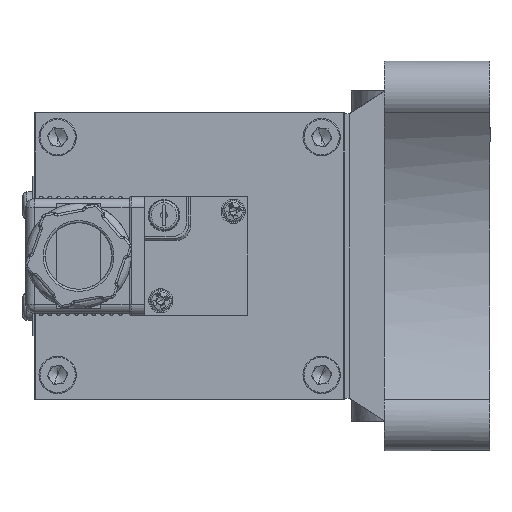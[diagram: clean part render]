
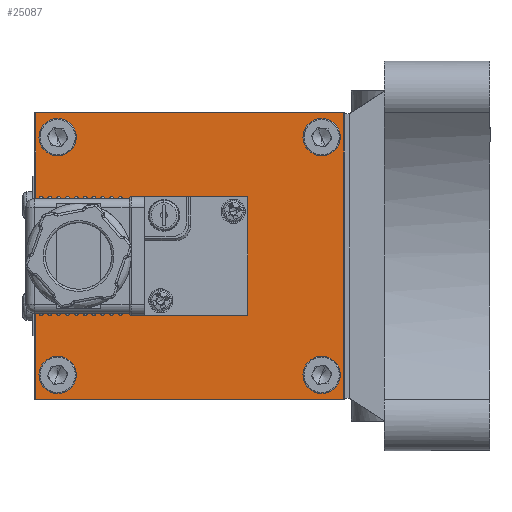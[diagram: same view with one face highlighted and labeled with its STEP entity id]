
A CAD part, left-side view. The second image highlights one B-rep face of the part: STEP entity #25087.
In plain terms, the highlighted planar face has unit normal (-1, 0, 0) as drawn and (0, 0, -1) by its records, which use the part's own axes.
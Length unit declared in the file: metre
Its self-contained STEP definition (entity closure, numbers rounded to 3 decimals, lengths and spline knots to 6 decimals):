
#214 = ORIENTED_EDGE ( 'NONE', *, *, #21885, .F. ) ;
#366 = DIRECTION ( 'NONE',  ( 0., 0., -1. ) ) ;
#499 = DIRECTION ( 'NONE',  ( 1., 0., 0. ) ) ;
#1231 = CIRCLE ( 'NONE', #6422, 0.0025 ) ;
#1237 = AXIS2_PLACEMENT_3D ( 'NONE', #18981, #3354, #21614 ) ;
#1310 = EDGE_CURVE ( 'NONE', #4756, #3748, #26468, .T. ) ;
#2567 = LINE ( 'NONE', #22824, #10328 ) ;
#2728 = EDGE_LOOP ( 'NONE', ( #11006, #214 ) ) ;
#2743 = CARTESIAN_POINT ( 'NONE',  ( -0.027, 0.00625, 0. ) ) ;
#3066 = VERTEX_POINT ( 'NONE', #23963 ) ;
#3354 = DIRECTION ( 'NONE',  ( 0., 0., -1. ) ) ;
#3632 = DIRECTION ( 'NONE',  ( -1., 0., 0. ) ) ;
#3748 = VERTEX_POINT ( 'NONE', #26095 ) ;
#4061 = EDGE_CURVE ( 'NONE', #27151, #17177, #2567, .T. ) ;
#4756 = VERTEX_POINT ( 'NONE', #29912 ) ;
#5339 = DIRECTION ( 'NONE',  ( 1., 0., 0. ) ) ;
#5562 = EDGE_LOOP ( 'NONE', ( #20130, #16241 ) ) ;
#5806 = CARTESIAN_POINT ( 'NONE',  ( 0.0325, 0.03625, 0. ) ) ;
#5951 = LINE ( 'NONE', #22556, #12888 ) ;
#6034 = VERTEX_POINT ( 'NONE', #26661 ) ;
#6422 = AXIS2_PLACEMENT_3D ( 'NONE', #15931, #366, #18590 ) ;
#6529 = FACE_BOUND ( 'NONE', #5562, .T. ) ;
#7242 = CARTESIAN_POINT ( 'NONE',  ( -0.027, 0.00625, 0. ) ) ;
#7887 = EDGE_CURVE ( 'NONE', #32171, #17316, #31930, .T. ) ;
#7992 = CARTESIAN_POINT ( 'NONE',  ( -0.0245, 0.06625, 0. ) ) ;
#9468 = EDGE_CURVE ( 'NONE', #6034, #22218, #27329, .T. ) ;
#9486 = CIRCLE ( 'NONE', #32975, 0.0025 ) ;
#9865 = EDGE_CURVE ( 'NONE', #22218, #27151, #5951, .T. ) ;
#9883 = DIRECTION ( 'NONE',  ( 1., 0., 0. ) ) ;
#10328 = VECTOR ( 'NONE', #27907, 1. ) ;
#10758 = ORIENTED_EDGE ( 'NONE', *, *, #26151, .F. ) ;
#11006 = ORIENTED_EDGE ( 'NONE', *, *, #7887, .F. ) ;
#12044 = DIRECTION ( 'NONE',  ( 0., -1., 0. ) ) ;
#12333 = AXIS2_PLACEMENT_3D ( 'NONE', #14299, #32717, #16919 ) ;
#12564 = CARTESIAN_POINT ( 'NONE',  ( 0.0245, 0.00625, 0. ) ) ;
#12595 = VERTEX_POINT ( 'NONE', #22523 ) ;
#12791 = DIRECTION ( 'NONE',  ( 0., 0., -1. ) ) ;
#12888 = VECTOR ( 'NONE', #12044, 1. ) ;
#13453 = FACE_BOUND ( 'NONE', #15788, .T. ) ;
#14253 = AXIS2_PLACEMENT_3D ( 'NONE', #2743, #21013, #5339 ) ;
#14299 = CARTESIAN_POINT ( 'NONE',  ( -0.027, 0.06625, 0. ) ) ;
#14625 = CIRCLE ( 'NONE', #1237, 0.0025 ) ;
#14814 = ORIENTED_EDGE ( 'NONE', *, *, #4061, .F. ) ;
#15093 = CARTESIAN_POINT ( 'NONE',  ( 0.027, 0.00625, 0. ) ) ;
#15499 = DIRECTION ( 'NONE',  ( 0., 0., -1. ) ) ;
#15720 = EDGE_CURVE ( 'NONE', #31283, #12595, #22054, .T. ) ;
#15788 = EDGE_LOOP ( 'NONE', ( #30892, #10758 ) ) ;
#15931 = CARTESIAN_POINT ( 'NONE',  ( 0.027, 0.06625, 0. ) ) ;
#16072 = DIRECTION ( 'NONE',  ( 0., 0., 1. ) ) ;
#16241 = ORIENTED_EDGE ( 'NONE', *, *, #17935, .F. ) ;
#16519 = VERTEX_POINT ( 'NONE', #7992 ) ;
#16530 = VECTOR ( 'NONE', #21462, 1. ) ;
#16620 = CARTESIAN_POINT ( 'NONE',  ( 0., 0.07125, 0. ) ) ;
#16919 = DIRECTION ( 'NONE',  ( 1., 0., 0. ) ) ;
#16981 = EDGE_CURVE ( 'NONE', #3748, #4756, #1231, .T. ) ;
#17177 = VERTEX_POINT ( 'NONE', #24796 ) ;
#17316 = VERTEX_POINT ( 'NONE', #12564 ) ;
#17733 = DIRECTION ( 'NONE',  ( 1., 0., 0. ) ) ;
#17825 = AXIS2_PLACEMENT_3D ( 'NONE', #31170, #12791, #28542 ) ;
#17935 = EDGE_CURVE ( 'NONE', #12595, #31283, #24935, .T. ) ;
#18231 = CARTESIAN_POINT ( 'NONE',  ( -0.0325, 0.07125, 0. ) ) ;
#18590 = DIRECTION ( 'NONE',  ( 1., 0., 0. ) ) ;
#18803 = CARTESIAN_POINT ( 'NONE',  ( -0.0245, 0.00625, 0. ) ) ;
#18981 = CARTESIAN_POINT ( 'NONE',  ( -0.027, 0.06625, 0. ) ) ;
#19452 = VECTOR ( 'NONE', #3632, 1. ) ;
#20130 = ORIENTED_EDGE ( 'NONE', *, *, #15720, .F. ) ;
#21013 = DIRECTION ( 'NONE',  ( 0., 0., -1. ) ) ;
#21237 = FACE_BOUND ( 'NONE', #2728, .T. ) ;
#21239 = CARTESIAN_POINT ( 'NONE',  ( -0.0325, 0.00125, 0. ) ) ;
#21417 = ORIENTED_EDGE ( 'NONE', *, *, #1310, .F. ) ;
#21462 = DIRECTION ( 'NONE',  ( 0., 1., 0. ) ) ;
#21614 = DIRECTION ( 'NONE',  ( 1., 0., 0. ) ) ;
#21828 = ORIENTED_EDGE ( 'NONE', *, *, #32746, .F. ) ;
#21885 = EDGE_CURVE ( 'NONE', #17316, #32171, #9486, .T. ) ;
#22054 = CIRCLE ( 'NONE', #14253, 0.0025 ) ;
#22218 = VERTEX_POINT ( 'NONE', #18231 ) ;
#22523 = CARTESIAN_POINT ( 'NONE',  ( -0.0295, 0.00625, 0. ) ) ;
#22556 = CARTESIAN_POINT ( 'NONE',  ( -0.0325, 0.03625, 0. ) ) ;
#22824 = CARTESIAN_POINT ( 'NONE',  ( 0., 0.00125, 0. ) ) ;
#22945 = ORIENTED_EDGE ( 'NONE', *, *, #9468, .F. ) ;
#23094 = ORIENTED_EDGE ( 'NONE', *, *, #9865, .F. ) ;
#23553 = LINE ( 'NONE', #5806, #16530 ) ;
#23963 = CARTESIAN_POINT ( 'NONE',  ( -0.0295, 0.06625, 0. ) ) ;
#24796 = CARTESIAN_POINT ( 'NONE',  ( 0.0325, 0.00125, 0. ) ) ;
#24935 = CIRCLE ( 'NONE', #32669, 0.0025 ) ;
#25087 = ADVANCED_FACE ( 'NONE', ( #13453, #27470, #6529, #21237, #33626 ), #31868, .F. ) ;
#25507 = EDGE_LOOP ( 'NONE', ( #23094, #22945, #21828, #14814 ) ) ;
#25610 = DIRECTION ( 'NONE',  ( 0., 0., -1. ) ) ;
#25695 = CARTESIAN_POINT ( 'NONE',  ( 0.0295, 0.00625, 0. ) ) ;
#26095 = CARTESIAN_POINT ( 'NONE',  ( 0.0245, 0.06625, 0. ) ) ;
#26151 = EDGE_CURVE ( 'NONE', #3066, #16519, #14625, .T. ) ;
#26468 = CIRCLE ( 'NONE', #17825, 0.0025 ) ;
#26661 = CARTESIAN_POINT ( 'NONE',  ( 0.0325, 0.07125, 0. ) ) ;
#27151 = VERTEX_POINT ( 'NONE', #29142 ) ;
#27329 = LINE ( 'NONE', #16620, #19452 ) ;
#27467 = AXIS2_PLACEMENT_3D ( 'NONE', #15093, #33530, #17733 ) ;
#27470 = FACE_BOUND ( 'NONE', #31855, .T. ) ;
#27907 = DIRECTION ( 'NONE',  ( 1., 0., 0. ) ) ;
#28542 = DIRECTION ( 'NONE',  ( 1., 0., 0. ) ) ;
#29002 = ORIENTED_EDGE ( 'NONE', *, *, #16981, .F. ) ;
#29142 = CARTESIAN_POINT ( 'NONE',  ( -0.0325, 0.00125, 0. ) ) ;
#29912 = CARTESIAN_POINT ( 'NONE',  ( 0.0295, 0.06625, 0. ) ) ;
#30892 = ORIENTED_EDGE ( 'NONE', *, *, #33461, .F. ) ;
#31170 = CARTESIAN_POINT ( 'NONE',  ( 0.027, 0.06625, 0. ) ) ;
#31283 = VERTEX_POINT ( 'NONE', #18803 ) ;
#31299 = CARTESIAN_POINT ( 'NONE',  ( 0.027, 0.00625, 0. ) ) ;
#31360 = CIRCLE ( 'NONE', #12333, 0.0025 ) ;
#31855 = EDGE_LOOP ( 'NONE', ( #21417, #29002 ) ) ;
#31868 = PLANE ( 'NONE',  #32163 ) ;
#31930 = CIRCLE ( 'NONE', #27467, 0.0025 ) ;
#32163 = AXIS2_PLACEMENT_3D ( 'NONE', #21239, #16072, #499 ) ;
#32171 = VERTEX_POINT ( 'NONE', #25695 ) ;
#32669 = AXIS2_PLACEMENT_3D ( 'NONE', #7242, #25610, #9883 ) ;
#32717 = DIRECTION ( 'NONE',  ( 0., 0., -1. ) ) ;
#32746 = EDGE_CURVE ( 'NONE', #17177, #6034, #23553, .T. ) ;
#32975 = AXIS2_PLACEMENT_3D ( 'NONE', #31299, #15499, #33935 ) ;
#33461 = EDGE_CURVE ( 'NONE', #16519, #3066, #31360, .T. ) ;
#33530 = DIRECTION ( 'NONE',  ( 0., 0., -1. ) ) ;
#33626 = FACE_OUTER_BOUND ( 'NONE', #25507, .T. ) ;
#33935 = DIRECTION ( 'NONE',  ( 1., 0., 0. ) ) ;
